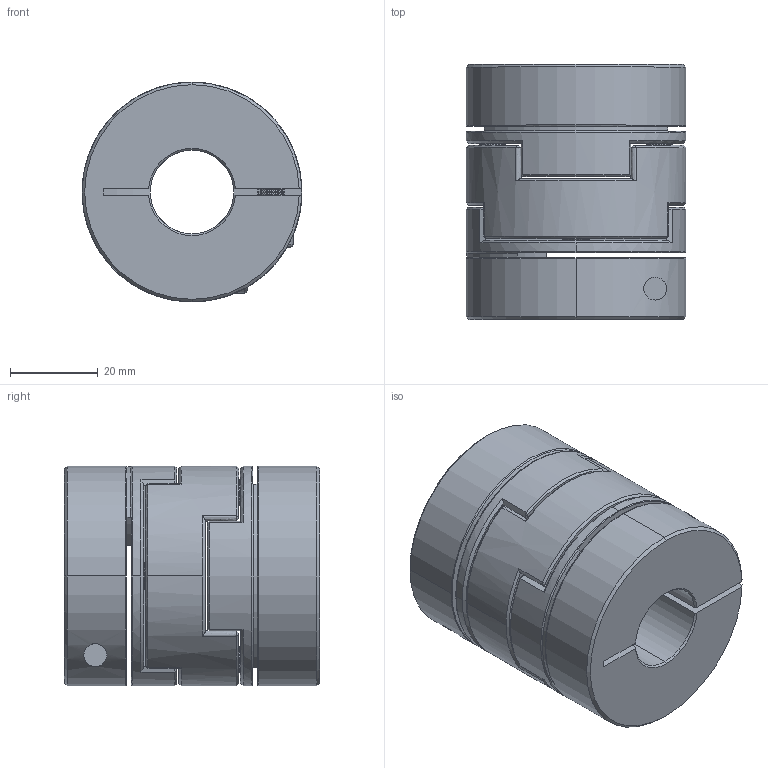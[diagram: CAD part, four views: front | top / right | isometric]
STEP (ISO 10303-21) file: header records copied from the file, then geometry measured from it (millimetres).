
FILE_DESCRIPTION (( 'STEP AP203' ), '1' );
FILE_NAME ('LZ-B-D50L58-19-20.STEP', '2021-10-29T08:14:59', ( '' ), ( '' ), 'SwSTEP 2.0', 'SolidWorks 2018', '' );
FILE_SCHEMA (( 'CONFIG_CONTROL_DESIGN' ));
Length unit declared in the file: millimetre
Products named in the file (1): LZ-B-D50L58-19-20
Bounding box: 50 x 58 x 50 mm (x, y, z)
Volume: 88489 mm3; surface area: 29782.5 mm2
Topology: 1 solids, 27 shells, 560 faces, 1364 edges, 810 vertices
Faces by surface type: cone 252, cylinder 160, plane 90, bspline 54, torus 4
Entity records: 17422 total; most frequent: CARTESIAN_POINT 4342, DIRECTION 2782, ORIENTED_EDGE 2720, EDGE_CURVE 1360, AXIS2_PLACEMENT_3D 1123, VERTEX_POINT 810, CIRCLE 616, EDGE_LOOP 594
